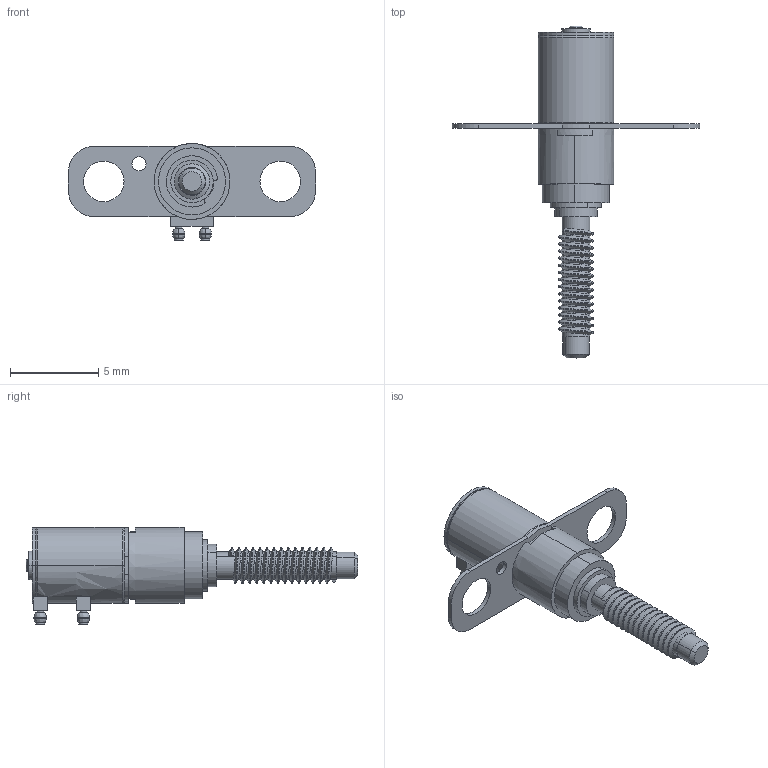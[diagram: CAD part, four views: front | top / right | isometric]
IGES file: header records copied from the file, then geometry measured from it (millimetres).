
Start section: SolidWorks IGES file using analytic representation for surfaces
Bounding box: 14 x 18.8 x 5.5 mm (x, y, z)
Volume: 168.1 mm3; surface area: 413.8 mm2
Topology: 3 solids, 6 shells, 239 faces, 1433 edges, 1815 vertices
Faces by surface type: revolution 157, plane 55, bspline 27
